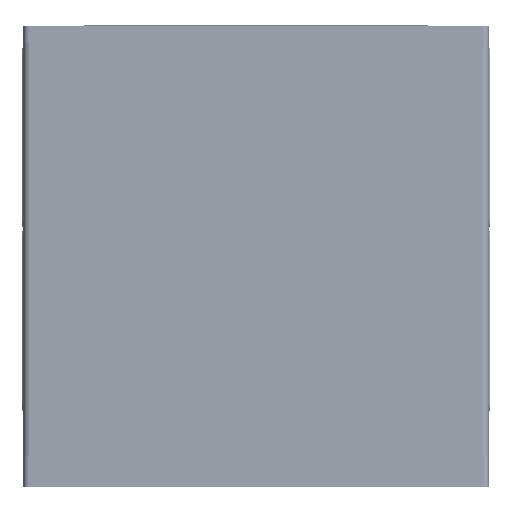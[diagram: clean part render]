
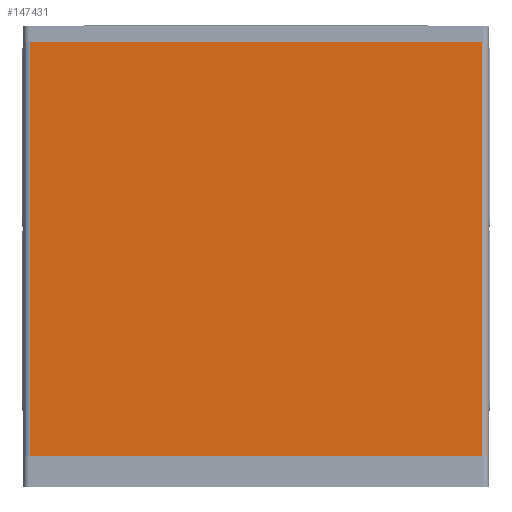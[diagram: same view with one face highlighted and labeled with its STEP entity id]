
A CAD part, front view. The second image highlights one B-rep face of the part: STEP entity #147431.
In plain terms, the highlighted planar face has unit normal (0, -1, 0).
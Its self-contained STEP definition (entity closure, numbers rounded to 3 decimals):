
#25361=ORIENTED_EDGE('',*,*,#58184,.F.);
#25362=ORIENTED_EDGE('',*,*,#58185,.T.);
#25363=ORIENTED_EDGE('',*,*,#58186,.F.);
#25364=ORIENTED_EDGE('',*,*,#58187,.T.);
#25365=ORIENTED_EDGE('',*,*,#58188,.F.);
#25366=ORIENTED_EDGE('',*,*,#58189,.T.);
#25367=ORIENTED_EDGE('',*,*,#58179,.F.);
#25368=ORIENTED_EDGE('',*,*,#58190,.T.);
#58179=EDGE_CURVE('',#76134,#76136,#90208,.T.);
#58184=EDGE_CURVE('',#76139,#76133,#90213,.T.);
#58185=EDGE_CURVE('',#76139,#76140,#90214,.T.);
#58186=EDGE_CURVE('',#76141,#76140,#90215,.T.);
#58187=EDGE_CURVE('',#76141,#76142,#90216,.T.);
#58188=EDGE_CURVE('',#76143,#76142,#90217,.T.);
#58189=EDGE_CURVE('',#76143,#76136,#90218,.T.);
#58190=EDGE_CURVE('',#76134,#76133,#90219,.T.);
#76133=VERTEX_POINT('',#226424);
#76134=VERTEX_POINT('',#226429);
#76136=VERTEX_POINT('',#226435);
#76139=VERTEX_POINT('',#226443);
#76140=VERTEX_POINT('',#226447);
#76141=VERTEX_POINT('',#226449);
#76142=VERTEX_POINT('',#226451);
#76143=VERTEX_POINT('',#226453);
#90208=LINE('',#226434,#107910);
#90213=LINE('',#226444,#107915);
#90214=LINE('',#226446,#107916);
#90215=LINE('',#226448,#107917);
#90216=LINE('',#226450,#107918);
#90217=LINE('',#226452,#107919);
#90218=LINE('',#226454,#107920);
#90219=LINE('',#226455,#107921);
#107910=VECTOR('',#182600,1000.);
#107915=VECTOR('',#182607,1000.);
#107916=VECTOR('',#182610,1000.);
#107917=VECTOR('',#182611,1000.);
#107918=VECTOR('',#182612,1000.);
#107919=VECTOR('',#182613,1000.);
#107920=VECTOR('',#182614,1000.);
#107921=VECTOR('',#182615,1000.);
#122975=EDGE_LOOP('',(#25361,#25362,#25363,#25364,#25365,#25366,#25367,
#25368));
#132680=FACE_BOUND('',#122975,.T.);
#140308=PLANE('',#159733);
#147431=ADVANCED_FACE('',(#132680),#140308,.T.);
#159733=AXIS2_PLACEMENT_3D('',#226445,#182608,#182609);
#182600=DIRECTION('',(-1.,0.,0.));
#182607=DIRECTION('',(-1.,0.,0.));
#182608=DIRECTION('',(0.,-1.,0.));
#182609=DIRECTION('',(0.,0.,-1.));
#182610=DIRECTION('',(0.,0.,1.));
#182611=DIRECTION('',(1.,0.,0.));
#182612=DIRECTION('',(-1.,0.,0.));
#182613=DIRECTION('',(1.,0.,0.));
#182614=DIRECTION('',(0.,0.,-1.));
#182615=DIRECTION('',(1.,0.,0.));
#226424=CARTESIAN_POINT('',(370.298,-0.7,-338.298));
#226429=CARTESIAN_POINT('',(-370.298,-0.7,-338.298));
#226434=CARTESIAN_POINT('',(-370.3,-0.7,-338.298));
#226435=CARTESIAN_POINT('',(-370.3,-0.7,-338.298));
#226443=CARTESIAN_POINT('',(370.3,-0.7,-338.298));
#226444=CARTESIAN_POINT('',(-370.3,-0.7,-338.298));
#226445=CARTESIAN_POINT('',(-381.,-0.7,-339.));
#226446=CARTESIAN_POINT('',(370.3,-0.7,-339.));
#226447=CARTESIAN_POINT('',(370.3,-0.7,338.298));
#226448=CARTESIAN_POINT('',(370.3,-0.7,338.298));
#226449=CARTESIAN_POINT('',(370.298,-0.7,338.298));
#226450=CARTESIAN_POINT('',(370.298,-0.7,338.298));
#226451=CARTESIAN_POINT('',(-370.298,-0.7,338.298));
#226452=CARTESIAN_POINT('',(370.3,-0.7,338.298));
#226453=CARTESIAN_POINT('',(-370.3,-0.7,338.298));
#226454=CARTESIAN_POINT('',(-370.3,-0.7,339.));
#226455=CARTESIAN_POINT('',(-370.298,-0.7,-338.298));
